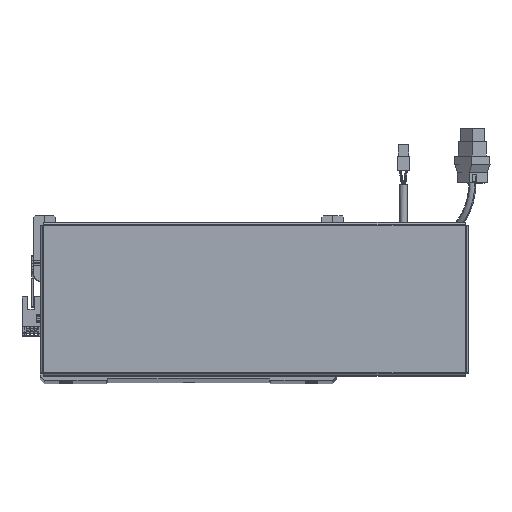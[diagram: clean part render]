
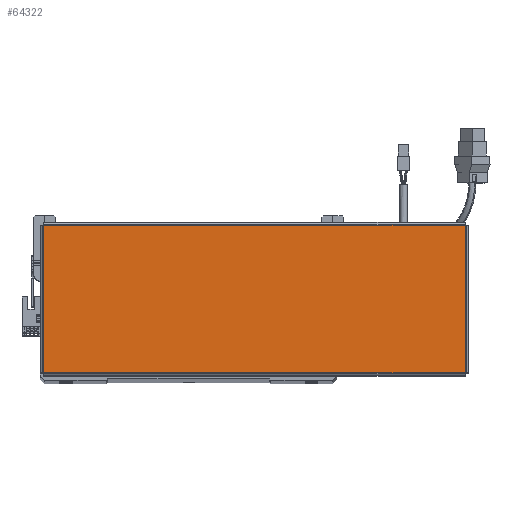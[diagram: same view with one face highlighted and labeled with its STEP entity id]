
A CAD part, top view. The second image highlights one B-rep face of the part: STEP entity #64322.
In plain terms, the highlighted planar face has unit normal (0, 0, 1).
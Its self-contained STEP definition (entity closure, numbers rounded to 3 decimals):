
#2036 = CARTESIAN_POINT ( 'NONE',  ( -156.513, 54.793, 0. ) ) ;
#3504 = EDGE_CURVE ( 'NONE', #44791, #70244, #41879, .T. ) ;
#3964 = EDGE_CURVE ( 'NONE', #8358, #70003, #18430, .T. ) ;
#8358 = VERTEX_POINT ( 'NONE', #22957 ) ;
#14503 = DIRECTION ( 'NONE',  ( -1., 0., 0. ) ) ;
#16020 = CARTESIAN_POINT ( 'NONE',  ( -156.543, -54.763, 0. ) ) ;
#16458 = DIRECTION ( 'NONE',  ( 0., 0., 1. ) ) ;
#16872 = VECTOR ( 'NONE', #14503, 1000. ) ;
#18430 = LINE ( 'NONE', #60196, #31860 ) ;
#18670 = LINE ( 'NONE', #32495, #16872 ) ;
#21580 = EDGE_CURVE ( 'NONE', #70244, #8358, #57121, .T. ) ;
#22193 = CARTESIAN_POINT ( 'NONE',  ( 0., 0., 0. ) ) ;
#22957 = CARTESIAN_POINT ( 'NONE',  ( 156.513, -54.763, 0. ) ) ;
#26861 = CARTESIAN_POINT ( 'NONE',  ( 156.513, 54.763, 0. ) ) ;
#27986 = DIRECTION ( 'NONE',  ( 1., 0., 0. ) ) ;
#31860 = VECTOR ( 'NONE', #71704, 1000. ) ;
#32320 = ORIENTED_EDGE ( 'NONE', *, *, #36545, .T. ) ;
#32495 = CARTESIAN_POINT ( 'NONE',  ( 156.543, 54.763, 0. ) ) ;
#34348 = FACE_OUTER_BOUND ( 'NONE', #52011, .T. ) ;
#36545 = EDGE_CURVE ( 'NONE', #70003, #44791, #18670, .T. ) ;
#41879 = LINE ( 'NONE', #2036, #57017 ) ;
#42188 = ORIENTED_EDGE ( 'NONE', *, *, #3504, .T. ) ;
#44791 = VERTEX_POINT ( 'NONE', #73422 ) ;
#50700 = PLANE ( 'NONE',  #71180 ) ;
#52011 = EDGE_LOOP ( 'NONE', ( #57916, #61661, #32320, #42188 ) ) ;
#53308 = DIRECTION ( 'NONE',  ( 0., -1., 0. ) ) ;
#55342 = VECTOR ( 'NONE', #67498, 1000. ) ;
#57017 = VECTOR ( 'NONE', #53308, 1000. ) ;
#57121 = LINE ( 'NONE', #16020, #55342 ) ;
#57916 = ORIENTED_EDGE ( 'NONE', *, *, #21580, .T. ) ;
#60196 = CARTESIAN_POINT ( 'NONE',  ( 156.513, -54.793, 0. ) ) ;
#61661 = ORIENTED_EDGE ( 'NONE', *, *, #3964, .T. ) ;
#64322 = ADVANCED_FACE ( 'NONE', ( #34348 ), #50700, .T. ) ;
#64596 = CARTESIAN_POINT ( 'NONE',  ( -156.513, -54.763, 0. ) ) ;
#67498 = DIRECTION ( 'NONE',  ( 1., 0., 0. ) ) ;
#70003 = VERTEX_POINT ( 'NONE', #26861 ) ;
#70244 = VERTEX_POINT ( 'NONE', #64596 ) ;
#71180 = AXIS2_PLACEMENT_3D ( 'NONE', #22193, #16458, #27986 ) ;
#71704 = DIRECTION ( 'NONE',  ( 0., 1., 0. ) ) ;
#73422 = CARTESIAN_POINT ( 'NONE',  ( -156.513, 54.763, 0. ) ) ;
